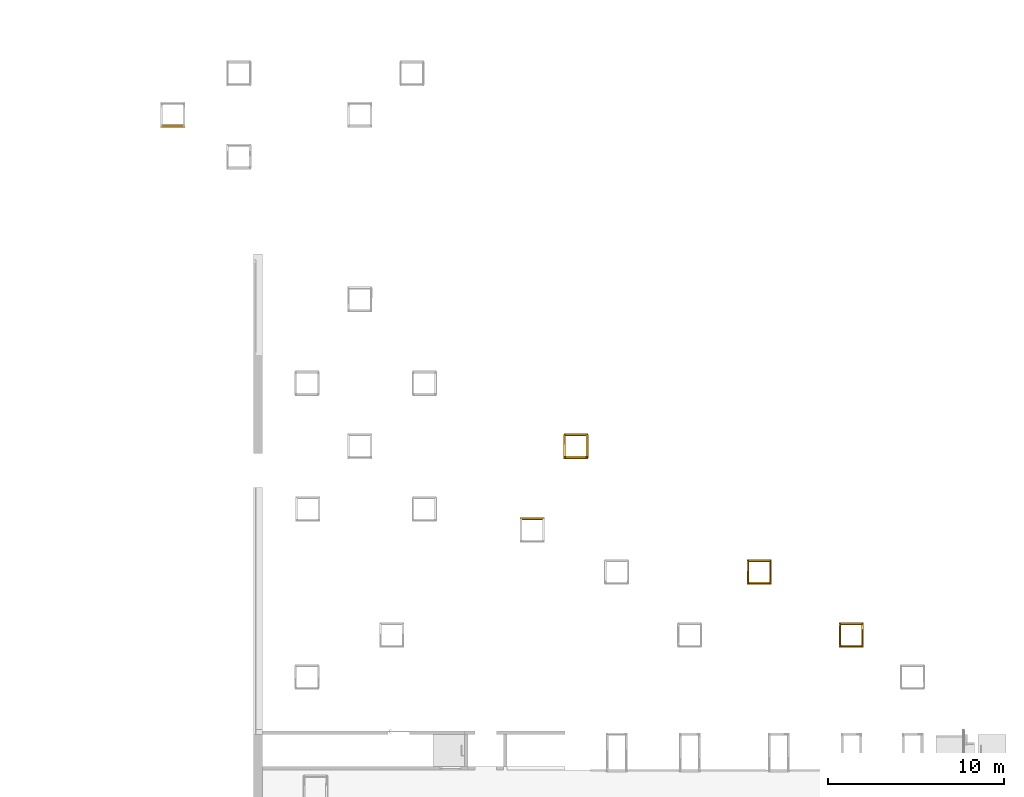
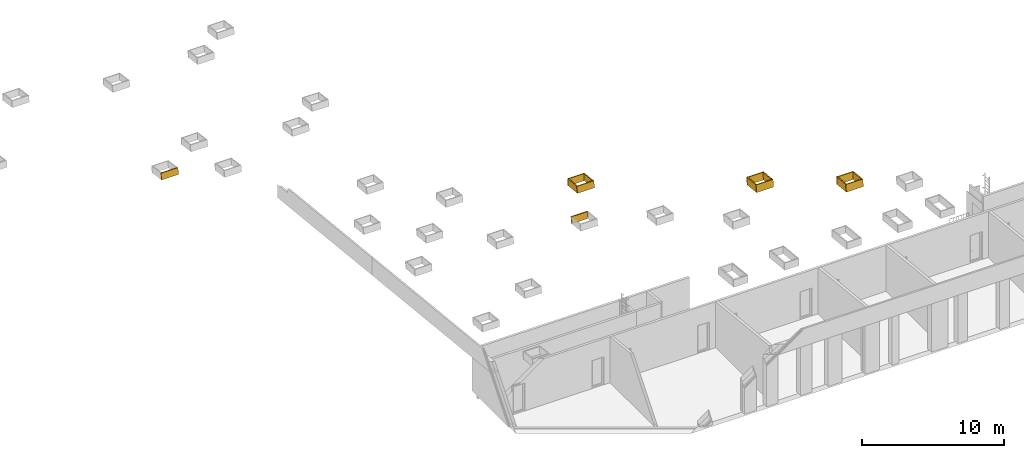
# One storey, part 18 of 23: 14 coverings.
"""IFC2X3 building model written with IfcOpenShell, lengths in millimetres."""

from ifc_helpers import new_model, entity, si_unit, converted_unit, derived_unit, money_unit, direction, frame, origin_with_axes, place, context, subcontext, project, spatial, faceted_brep, material, material_list, type_object, element, save


model = new_model("IFC2X3")

# Units and contexts
model_context = context("Model", 3, precision=0.01, world=origin_with_axes(), true_north=direction((0.0, 1.0)))
body_context = subcontext(model_context, "Body", "Model", "MODEL_VIEW")
ifc_project = project(units=[si_unit("LENGTHUNIT", "METRE", prefix="MILLI"), si_unit("AREAUNIT", "SQUARE_METRE"), si_unit("VOLUMEUNIT", "CUBIC_METRE"), converted_unit("PLANEANGLEUNIT", "DEGREE", entity("IfcPlaneAngleMeasure", 0.0174532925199), si_unit("PLANEANGLEUNIT", "RADIAN"), dimensions=[0, 0, 0, 0, 0, 0, 0]), si_unit("SOLIDANGLEUNIT", "STERADIAN"), money_unit("EUR"), converted_unit("TIMEUNIT", "Year", entity("IfcTimeMeasure", 31556926.0), si_unit("TIMEUNIT", "SECOND"), dimensions=[0, 0, 1, 0, 0, 0, 0]), si_unit("MASSUNIT", "GRAM", prefix="KILO"), si_unit("THERMODYNAMICTEMPERATUREUNIT", "DEGREE_CELSIUS"), si_unit("LUMINOUSINTENSITYUNIT", "LUMEN"), si_unit("ENERGYUNIT", "JOULE", prefix="MEGA"), derived_unit("THERMALCONDUCTANCEUNIT", [(si_unit("POWERUNIT", "WATT"), 1), (si_unit("LENGTHUNIT", "METRE"), -1), (si_unit("THERMODYNAMICTEMPERATUREUNIT", "KELVIN"), -1)]), derived_unit("SPECIFICHEATCAPACITYUNIT", [(si_unit("ENERGYUNIT", "JOULE"), 1), (si_unit("MASSUNIT", "GRAM", prefix="KILO"), -1), (si_unit("THERMODYNAMICTEMPERATUREUNIT", "KELVIN"), -1)]), derived_unit("MASSDENSITYUNIT", [(si_unit("MASSUNIT", "GRAM", prefix="KILO"), 1), (si_unit("VOLUMEUNIT", "CUBIC_METRE"), -1)])], contexts=[model_context])

# Site, building, storey
site_placement = place(None, origin_with_axes())
site = spatial("IfcSite", under=ifc_project, at=site_placement, Name="L.Koidula tn 11b", CompositionType="ELEMENT")
building_placement = place(site_placement, origin_with_axes())
building = spatial("IfcBuilding", under=site, at=building_placement, Name="Rakvere Riigigümnaasium", CompositionType="ELEMENT")
storey_placement = place(building_placement, frame((0.0, 0.0, 7440.0), z_axis=(0.0, 0.0, 1.0), x_axis=(1.0, 0.0, 0.0)))
storey = spatial("IfcBuildingStorey", under=building, at=storey_placement, Name="3.korrus +7,44", CompositionType="ELEMENT", Elevation=7440.0)

# Coverings
ifc_material_1 = material(Name="SKR-02_Kipsplaat")
ifc_material_2 = material(Name="mineraalvill+karkass")
ifc_material_list_1 = material_list([ifc_material_1, ifc_material_1, ifc_material_2])
covering_type = type_object("IfcCoveringType", Name="SA-2xkips 91", PredefinedType="NOTDEFINED")
covering_1_placement = place(storey_placement, frame((69588.2514085, 23330.839022, 2237.63897934), z_axis=(0.0, 0.0, 1.0), x_axis=(-1.0, 0.0, 0.0)))
element("IfcCovering", 1, at=covering_1_placement, inside=storey, type_object=covering_type, material=ifc_material_list_1, Name="Ava-pinnakate", PredefinedType="NOTDEFINED", context=body_context, shape_type="Brep", body=[
    faceted_brep([(-12.5001425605, -0.99535127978, 9.47013483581), (-12.5019214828, -13.4268749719, 8.16352904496), (-12.511217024, -78.3862809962, 626.21099269), (-12.5094381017, -65.9547573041, 627.517598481), (1212.49807421, -13.4268749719, 8.16352904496), (1212.49987003, -0.99535127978, 9.47013483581), (1212.48869036, -78.3862809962, 626.21099269), (1212.49048619, -65.9547573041, 627.517598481)], [[[0, 1, 2, 3]], [[4, 1, 0, 5]], [[1, 4, 6, 2]], [[7, 3, 2, 6]], [[5, 0, 3, 7]], [[4, 5, 7, 6]]]),
    faceted_brep([(-25.0019216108, -13.4268749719, 8.16352904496), (-25.0037005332, -25.858398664, 6.85692325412), (-25.0129960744, -90.8178046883, 624.904386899), (-25.011217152, -78.3862809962, 626.21099269), (1224.99627852, -25.858398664, 6.85692325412), (1224.99807434, -13.4268749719, 8.16352904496), (1224.98689467, -90.8178046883, 624.904386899), (1224.98869049, -78.3862809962, 626.21099269)], [[[0, 1, 2, 3]], [[4, 1, 0, 5]], [[1, 4, 6, 2]], [[7, 3, 2, 6]], [[5, 0, 3, 7]], [[4, 5, 7, 6]]]),
    faceted_brep([(-91.0037012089, -25.858398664, 6.85692325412), (-91.0130367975, -91.0976655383, 0.0), (-91.01309455, -91.5012534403, 0.0), (-91.0223894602, -156.456249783, 618.005508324), (-91.0129967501, -90.8178046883, 624.904386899), (1290.98685493, -91.0976655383, 0.0), (1290.99627921, -25.858398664, 6.85692325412), (1290.98679663, -91.5012534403, 0.0), (1290.97741342, -156.456249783, 618.005508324), (1290.98689536, -90.8178046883, 624.904386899)], [[[0, 1, 2, 3, 4]], [[5, 1, 0, 6]], [[1, 5, 7, 2]], [[7, 8, 3, 2]], [[9, 4, 3, 8]], [[6, 0, 4, 9]], [[5, 6, 9, 8, 7]]]),
])
covering_2_placement = place(storey_placement, frame((68388.0791348, 22138.3739884, 2372.21929527), z_axis=(0.0, 0.0, 1.0), x_axis=(1.0, 0.0, 0.0)))
element("IfcCovering", 2, at=covering_2_placement, inside=storey, type_object=covering_type, material=ifc_material_list_1, Name="Ava-pinnakate", PredefinedType="NOTDEFINED", context=body_context, shape_type="Brep", body=[
    faceted_brep([(1212.49986082, -12.3974719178, 1.63058678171), (1212.50163975, 0.0340517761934, 0.323980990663), (1212.51093529, 64.9934614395, 618.371444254), (1212.50915637, 52.5619341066, 619.678050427), (-12.4999952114, 0.0340517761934, 0.323980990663), (-12.5017910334, -12.3974719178, 1.63058678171), (-12.4906113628, 64.9934614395, 618.371444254), (-12.4924071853, 52.5619341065, 619.678050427)], [[[0, 1, 2, 3]], [[4, 1, 0, 5]], [[1, 4, 6, 2]], [[7, 3, 2, 6]], [[5, 0, 3, 7]], [[4, 5, 7, 6]]]),
    faceted_brep([(1224.99808257, -24.8289956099, 2.93719257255), (1224.99986149, -12.3974719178, 1.63058678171), (1225.00915651, 52.5619341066, 619.678050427), (1225.00737759, 40.1304104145, 620.984656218), (-25.0017898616, -12.3974719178, 1.63058678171), (-25.0035856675, -24.8289956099, 2.93719257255), (-24.9924073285, 52.5619341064, 619.678050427), (-24.9942031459, 40.1304104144, 620.984656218)], [[[0, 1, 2, 3]], [[4, 1, 0, 5]], [[1, 4, 6, 2]], [[7, 3, 2, 6]], [[5, 0, 3, 7]], [[4, 5, 7, 6]]]),
    faceted_brep([(1290.9886893, -90.4674407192, 9.8360711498), (1290.99808201, -24.8289956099, 2.93719257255), (1291.00737755, 40.1304104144, 620.984656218), (1290.99798484, -25.5080356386, 627.883534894), (-91.0035876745, -24.8289956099, 2.93719257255), (-91.0130696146, -90.4674407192, 9.8360711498), (-90.9942038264, 40.1304104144, 620.984656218), (-91.0036857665, -25.5080356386, 627.883534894)], [[[0, 1, 2, 3]], [[4, 1, 0, 5]], [[1, 4, 6, 2]], [[7, 3, 2, 6]], [[5, 0, 3, 7]], [[4, 5, 7, 6]]]),
])
covering_3_placement = place(storey_placement, frame((68388.2513948, 23330.839022, 2161.55101679), z_axis=(0.0, 0.0, 1.0), x_axis=(-0.000144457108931, -0.999999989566, 0.0)))
element("IfcCovering", 3, at=covering_3_placement, inside=storey, type_object=covering_type, material=ifc_material_list_1, Name="Ava-pinnakate", PredefinedType="NOTDEFINED", context=body_context, shape_type="Brep", body=[
    faceted_brep([(1192.43099424, -1.17488241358e-06, 210.992259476), (-0.995351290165, -9.2512664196e-09, 85.5580973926), (-65.9547579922, -6.12644157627e-07, 703.605561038), (-0.0976539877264, -6.19408524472e-07, 710.527421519), (0.0, -6.19408524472e-07, 710.527421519), (0.0, -6.19408524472e-07, 710.537685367), (1127.4715839, -7.57012230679e-08, 829.039722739), (-0.993545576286, -12.5, 85.5580973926), (1192.43279995, -12.4999999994, 210.992259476), (-65.9529522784, -12.5, 703.605561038), (-0.0958482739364, -12.5, 710.527421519), (0.0, -12.5, 710.527421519), (0.0, -12.5, 710.537495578), (1127.47338961, -12.5, 829.039722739)], [[[0, 1, 2, 3, 4, 5, 6]], [[7, 1, 0, 8]], [[1, 7, 9, 2]], [[10, 3, 2, 9]], [[4, 3, 10, 11]], [[11, 12, 5, 4]], [[13, 6, 5, 12]], [[8, 0, 6, 13]], [[7, 8, 13, 12, 11, 10, 9]]]),
    faceted_brep([(1204.86432377, -12.5, 212.298865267), (-13.4250693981, -12.5, 84.2514916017), (-78.3844761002, -12.5, 702.298955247), (1139.90491707, -12.5, 830.346328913), (-13.4232636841, -25.0000006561, 84.2514916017), (1204.86612949, -24.9999985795, 212.298865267), (-78.3826703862, -25.0000006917, 702.298955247), (1139.90672279, -25.00000001, 830.346328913)], [[[0, 1, 2, 3]], [[4, 1, 0, 5]], [[1, 4, 6, 2]], [[3, 2, 6, 7]], [[5, 0, 3, 7]], [[4, 5, 7, 6]]]),
    faceted_brep([(1217.29765331, -24.9999985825, 213.605471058), (-25.8547875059, -25.000000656, 82.9448858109), (-90.814194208, -25.0000006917, 700.992349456), (1152.33824661, -25.000000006, 831.652934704), (-25.8452533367, -91.0, 82.9448858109), (1217.30718748, -91.0, 213.605471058), (-90.8046600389, -91.0, 700.992349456), (1152.34778078, -91.0, 831.652934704)], [[[0, 1, 2, 3]], [[4, 1, 0, 5]], [[1, 4, 6, 2]], [[3, 2, 6, 7]], [[5, 0, 3, 7]], [[4, 5, 7, 6]]]),
])
ifc_material_list_2 = material_list([ifc_material_2, ifc_material_1, ifc_material_1])
covering_4_placement = place(storey_placement, frame((69588.2514085, 23330.839022, 2161.55101679), z_axis=(0.0, 0.0, 1.0), x_axis=(-0.000143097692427, -0.999999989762, 0.0)))
element("IfcCovering", 4, at=covering_4_placement, inside=storey, type_object=covering_type, material=ifc_material_list_2, Name="Ava-pinnakate", PredefinedType="NOTDEFINED", context=body_context, shape_type="Brep", body=[
    faceted_brep([(1217.28101975, 90.999999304, 213.605471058), (-25.8714208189, 91.0, 82.9448858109), (-90.8308275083, 91.0, 700.992349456), (-0.110675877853, 90.9999993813, 710.527421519), (0.0, 90.9999993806, 710.527421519), (0.0, 90.9999993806, 710.539054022), (1152.32161307, 90.9999993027, 831.652934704), (-25.8619763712, 25.0000006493, 82.9448858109), (1217.2904642, 25.000000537, 213.605471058), (-90.8213830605, 25.0000000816, 700.992349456), (-0.101231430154, 25.0000000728, 710.527421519), (0.0, 25.0000000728, 710.527421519), (0.0, 25.0000000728, 710.538061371), (1152.33105751, 25.0000000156, 831.652934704)], [[[0, 1, 2, 3, 4, 5, 6]], [[7, 1, 0, 8]], [[1, 7, 9, 2]], [[10, 3, 2, 9]], [[4, 3, 10, 11]], [[11, 12, 5, 4]], [[13, 6, 5, 12]], [[8, 0, 6, 13]], [[7, 8, 13, 12, 11, 10, 9]]]),
    faceted_brep([(1204.85894038, 25.0000005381, 212.298865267), (-13.4304525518, 25.0000006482, 84.2514916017), (-78.3898592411, 25.0000000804, 702.298955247), (-0.101231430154, 25.0000000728, 710.527421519), (0.0, 25.0000000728, 710.527421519), (0.0, 25.0000000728, 710.538061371), (1139.89953369, 25.0000000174, 830.346328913), (-13.4286638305, 12.5, 84.2514916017), (1204.8607291, 12.5, 212.298865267), (-78.3880705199, 12.5, 702.298955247), (-0.0994427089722, 12.5, 710.527421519), (0.0, 12.5, 710.527421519), (0.0, 12.5, 710.537873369), (1139.90132241, 12.5, 830.346328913)], [[[0, 1, 2, 3, 4, 5, 6]], [[7, 1, 0, 8]], [[1, 7, 9, 2]], [[10, 3, 2, 9]], [[4, 3, 10, 11]], [[11, 12, 5, 4]], [[13, 6, 5, 12]], [[8, 0, 6, 13]], [[7, 8, 13, 12, 11, 10, 9]]]),
    faceted_brep([(1192.43097356, 12.5, 210.992445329), (-0.99539720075, 12.5, 85.5582805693), (-65.956527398, 12.5, 703.605563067), (-0.0994427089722, 12.5, 710.527421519), (0.0, 12.5, 710.527421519), (0.0, 12.5, 710.537873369), (1127.46984062, 12.5, 829.039727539), (-0.995351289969, 0.0, 85.5580973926), (1192.430994, 0.0, 210.992259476), (-65.9547579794, 0.0, 703.605561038), (-0.0976539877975, 0.0, 710.527421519), (0.0, 0.0, 710.527421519), (0.0, 0.0, 710.537685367), (1127.47158368, 0.0, 829.039722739)], [[[0, 1, 2, 3, 4, 5, 6]], [[7, 1, 0, 8]], [[1, 7, 9, 2]], [[10, 3, 2, 9]], [[4, 3, 10, 11]], [[11, 12, 5, 4]], [[13, 6, 5, 12]], [[8, 0, 6, 13]], [[7, 8, 13, 12, 11, 10, 9]]]),
])
covering_5_placement = place(storey_placement, frame((64355.1267274, 26911.1709749, 1861.79296544), z_axis=(0.0, 0.0, 1.0), x_axis=(-1.0, 0.0, 0.0)))
element("IfcCovering", 5, at=covering_5_placement, inside=storey, type_object=covering_type, material=ifc_material_list_1, Name="Ava-pinnakate", PredefinedType="NOTDEFINED", context=body_context, shape_type="Brep", body=[
    faceted_brep([(-12.5001356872, -0.94731972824, 9.01314514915), (-12.5019146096, -13.3788434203, 7.70653935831), (-12.5112101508, -78.3382494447, 625.754003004), (-12.5094312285, -65.9067257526, 627.060608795), (1212.49808115, -13.3788434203, 7.70653935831), (1212.49987697, -0.94731972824, 9.01314514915), (1212.4886973, -78.3382494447, 625.754003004), (1212.49049312, -65.9067257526, 627.060608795)], [[[0, 1, 2, 3]], [[4, 1, 0, 5]], [[1, 4, 6, 2]], [[7, 3, 2, 6]], [[5, 0, 3, 7]], [[4, 5, 7, 6]]]),
    faceted_brep([(-25.0019147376, -13.3788434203, 7.70653935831), (-25.00369366, -25.8103671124, 6.39993356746), (-25.0129892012, -90.7697731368, 624.447397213), (-25.0112102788, -78.3382494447, 625.754003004), (1224.99628546, -25.8103671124, 6.39993356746), (1224.99808128, -13.3788434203, 7.70653935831), (1224.98690161, -90.7697731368, 624.447397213), (1224.98869743, -78.3382494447, 625.754003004)], [[[0, 1, 2, 3]], [[4, 1, 0, 5]], [[1, 4, 6, 2]], [[7, 3, 2, 6]], [[5, 0, 3, 7]], [[4, 5, 7, 6]]]),
    faceted_brep([(-91.0036943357, -25.8103671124, 6.39993356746), (-91.0124077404, -86.7016675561, 0.0), (-91.0130945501, -91.5012534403, 0.0), (-91.022382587, -156.408218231, 617.548518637), (-91.0129898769, -90.7697731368, 624.447397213), (1290.98748997, -86.7016675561, 0.0), (1290.99628615, -25.8103671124, 6.39993356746), (1290.98679663, -91.5012534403, 0.0), (1290.97742036, -156.408218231, 617.548518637), (1290.9869023, -90.7697731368, 624.447397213)], [[[0, 1, 2, 3, 4]], [[5, 1, 0, 6]], [[1, 5, 7, 2]], [[7, 8, 3, 2]], [[9, 4, 3, 8]], [[6, 0, 4, 9]], [[5, 6, 9, 8, 7]]]),
])
covering_6_placement = place(storey_placement, frame((63154.9544537, 25718.7059414, 1996.37328137), z_axis=(0.0, 0.0, 1.0), x_axis=(1.0, 0.0, 0.0)))
element("IfcCovering", 6, at=covering_6_placement, inside=storey, type_object=covering_type, material=ifc_material_list_1, Name="Ava-pinnakate", PredefinedType="NOTDEFINED", context=body_context, shape_type="Brep", body=[
    faceted_brep([(1212.49985395, -12.4455034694, 1.17359709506), (1212.50145178, -1.27947298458, 0.0), (1212.50163487, 0.0, 0.0), (1212.51092842, 64.9454298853, 617.914454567), (1212.50914949, 52.513902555, 619.22106074), (-12.5001849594, -1.27947298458, 0.0), (-12.5017979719, -12.4455034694, 1.17359709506), (-12.5000001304, 0.0, 0.0), (-12.4906183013, 64.9454298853, 617.914454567), (-12.4924141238, 52.513902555, 619.22106074)], [[[0, 1, 2, 3, 4]], [[5, 1, 0, 6]], [[1, 5, 7, 2]], [[7, 8, 3, 2]], [[9, 4, 3, 8]], [[6, 0, 4, 9]], [[5, 6, 9, 8, 7]]]),
    faceted_brep([(1224.99807569, -24.8770271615, 2.4802028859), (1224.99985462, -12.4455034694, 1.17359709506), (1225.00914964, 52.5139025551, 619.22106074), (1225.00737071, 40.0823788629, 620.527666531), (-25.0017967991, -12.4455034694, 1.17359709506), (-25.0035926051, -24.8770271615, 2.4802028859), (-24.9924142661, 52.5139025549, 619.22106074), (-24.9942100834, 40.0823788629, 620.527666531)], [[[0, 1, 2, 3]], [[4, 1, 0, 5]], [[1, 4, 6, 2]], [[7, 3, 2, 6]], [[5, 0, 3, 7]], [[4, 5, 7, 6]]]),
    faceted_brep([(1290.98868243, -90.5154722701, 9.37908146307), (1290.99807514, -24.8770271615, 2.4802028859), (1291.00737068, 40.0823788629, 620.527666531), (1290.99797797, -25.5560671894, 627.426545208), (-91.0035946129, -24.8770271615, 2.4802028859), (-91.0130765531, -90.5154722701, 9.37908146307), (-90.9942107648, 40.0823788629, 620.527666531), (-91.003692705, -25.5560671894, 627.426545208)], [[[0, 1, 2, 3]], [[4, 1, 0, 5]], [[1, 4, 6, 2]], [[7, 3, 2, 6]], [[5, 0, 3, 7]], [[4, 5, 7, 6]]]),
])
covering_7_placement = place(storey_placement, frame((63155.1267137, 26911.1709749, 1785.70500288), z_axis=(0.0, 0.0, 1.0), x_axis=(-0.000144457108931, -0.999999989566, 0.0)))
element("IfcCovering", 7, at=covering_7_placement, inside=storey, type_object=covering_type, material=ifc_material_list_1, Name="Ava-pinnakate", PredefinedType="NOTDEFINED", context=body_context, shape_type="Brep", body=[
    faceted_brep([(1192.46504601, -1.1754579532e-06, 210.533800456), (-0.94731973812, -8.79651906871e-09, 85.1011077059), (-65.9067264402, -6.12203621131e-07, 703.148571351), (1127.51961545, -7.6518347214e-08, 828.582733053), (1192.46504601, -1.1754579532e-06, 210.668278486), (-0.945514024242, -12.5, 85.1011077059), (1192.46685057, -12.4999999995, 210.533800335), (-65.9049207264, -12.5, 703.148571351), (1127.52142116, -12.5, 828.582733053), (1192.46685173, -12.4999999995, 210.668278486)], [[[0, 1, 2, 3, 4]], [[5, 1, 0, 6]], [[1, 5, 7, 2]], [[8, 3, 2, 7]], [[4, 3, 8, 9]], [[6, 0, 4, 9]], [[5, 6, 9, 8, 7]]]),
    faceted_brep([(1192.46504601, -12.5, 210.533610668), (-13.3770378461, -12.5, 83.7945019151), (-78.3364445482, -12.5, 701.84196556), (1139.95294862, -12.5, 829.889339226), (1204.91235533, -12.5, 211.841875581), (1193.74632473, -12.5, 210.668278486), (1192.46504601, -12.5, 210.668278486), (-13.3752321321, -25.0000006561, 83.7945019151), (1192.46504601, -24.9999985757, 210.53342088), (-78.3346388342, -25.0000006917, 701.84196556), (1139.95475434, -25.0000000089, 829.889339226), (1204.91416104, -24.9999985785, 211.841875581), (1193.74813044, -24.9999985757, 210.668278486), (1192.46504601, -24.9999985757, 210.668278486)], [[[0, 1, 2, 3, 4, 5, 6]], [[7, 1, 0, 8]], [[1, 7, 9, 2]], [[10, 3, 2, 9]], [[11, 4, 3, 10]], [[12, 5, 4, 11]], [[5, 12, 13, 6]], [[8, 0, 6, 13]], [[7, 8, 13, 12, 11, 10, 9]]]),
    faceted_brep([(1192.46504601, -24.9999985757, 210.53342088), (-25.8067559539, -25.000000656, 82.4878961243), (-90.766162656, -25.0000006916, 700.53535977), (1152.38627816, -25.000000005, 831.195945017), (1217.34568486, -24.9999985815, 213.148481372), (1193.74813044, -24.9999985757, 210.668278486), (1192.46504601, -24.9999985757, 210.668278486), (-25.7972217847, -91.0, 82.4878961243), (1192.46504601, -91.0, 210.532418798), (-90.7566284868, -91.0, 700.53535977), (1152.39581233, -91.0, 831.195945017), (1217.35521903, -91.0, 213.148481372), (1193.75766461, -91.0, 210.668278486), (1192.46504601, -91.0, 210.668278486)], [[[0, 1, 2, 3, 4, 5, 6]], [[7, 1, 0, 8]], [[1, 7, 9, 2]], [[10, 3, 2, 9]], [[11, 4, 3, 10]], [[12, 5, 4, 11]], [[5, 12, 13, 6]], [[8, 0, 6, 13]], [[7, 8, 13, 12, 11, 10, 9]]]),
])
covering_8_placement = place(storey_placement, frame((64355.1267274, 26911.1709749, 1785.70500288), z_axis=(0.0, 0.0, 1.0), x_axis=(-0.000143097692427, -0.999999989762, 0.0)))
element("IfcCovering", 8, at=covering_8_placement, inside=storey, type_object=covering_type, material=ifc_material_list_2, Name="Ava-pinnakate", PredefinedType="NOTDEFINED", context=body_context, shape_type="Brep", body=[
    faceted_brep([(1192.46504578, 90.9999988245, 210.535169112), (-25.8233892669, 91.0, 82.4878961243), (-90.7827959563, 91.0, 700.53535977), (1152.36964462, 90.9999993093, 831.195945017), (1217.32905131, 90.9999993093, 213.148481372), (1193.73149689, 90.999998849, 210.668278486), (1192.46504578, 90.9999988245, 210.668278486), (-25.8139448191, 25.0000006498, 82.4878961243), (1192.46504578, 25.0000005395, 210.53417646), (-90.7733515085, 25.000000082, 700.53535977), (1152.37908906, 25.000000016, 831.195945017), (1217.33849575, 25.0000005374, 213.148481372), (1193.74094134, 25.0000005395, 210.668278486), (1192.46504578, 25.0000005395, 210.668278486)], [[[0, 1, 2, 3, 4, 5, 6]], [[7, 1, 0, 8]], [[1, 7, 9, 2]], [[10, 3, 2, 9]], [[11, 4, 3, 10]], [[12, 5, 4, 11]], [[5, 12, 13, 6]], [[8, 0, 6, 13]], [[7, 8, 13, 12, 11, 10, 9]]]),
    faceted_brep([(1192.46504578, 25.0000005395, 210.53417646), (-13.3824209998, 25.0000006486, 83.7945019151), (-78.3418276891, 25.0000000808, 701.84196556), (1139.94756525, 25.0000000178, 829.889339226), (1204.90697193, 25.0000005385, 211.841875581), (1193.74094134, 25.0000005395, 210.668278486), (1192.46504578, 25.0000005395, 210.668278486), (-13.3806322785, 12.5, 83.7945019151), (1192.46504578, 12.5, 210.533988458), (-78.3400389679, 12.5, 701.84196556), (1139.94935397, 12.5, 829.889339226), (1204.90876066, 12.5, 211.841875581), (1193.74273006, 12.5, 210.668278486), (1192.46504578, 12.5, 210.668278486)], [[[0, 1, 2, 3, 4, 5, 6]], [[7, 1, 0, 8]], [[1, 7, 9, 2]], [[10, 3, 2, 9]], [[11, 4, 3, 10]], [[12, 5, 4, 11]], [[5, 12, 13, 6]], [[8, 0, 6, 13]], [[7, 8, 13, 12, 11, 10, 9]]]),
    faceted_brep([(1192.46504578, 12.5, 210.533988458), (-0.947364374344, 12.5, 85.1012910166), (-65.9084945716, 12.5, 703.148573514), (1127.51787345, 12.5, 828.582737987), (1192.46504578, 12.5, 210.668278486), (-0.947319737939, 0.0, 85.1011077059), (1192.46504578, 0.0, 210.533800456), (-65.9067264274, 0.0, 703.148571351), (1127.51961523, 0.0, 828.582733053), (1192.46504578, 0.0, 210.668278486)], [[[0, 1, 2, 3, 4]], [[5, 1, 0, 6]], [[1, 5, 7, 2]], [[8, 3, 2, 7]], [[4, 3, 8, 9]], [[6, 0, 4, 9]], [[5, 6, 9, 8, 7]]]),
])
covering_9_placement = place(storey_placement, frame((51444.7853354, 29298.8225691, 1599.01803736), z_axis=(0.0, 0.0, 1.0), x_axis=(-1.0, 0.0, 0.0)))
element("IfcCovering", 9, at=covering_9_placement, inside=storey, type_object=covering_type, material=ifc_material_list_1, Name="Ava-pinnakate", PredefinedType="NOTDEFINED", context=body_context, shape_type="Brep", body=[
    faceted_brep([(1212.48934699, -73.8408395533, 582.964006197), (-12.5105665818, -73.8408395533, 582.964006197), (-12.5020904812, -14.6078752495, 19.3999961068), (1212.49790361, -14.6078752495, 19.3999961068), (-12.5087876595, -61.4093158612, 584.270611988), (1212.49114281, -61.4093158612, 584.270611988), (-12.5003115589, -2.1763515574, 20.7066018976), (1212.49969943, -2.1763515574, 20.7066018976)], [[[0, 1, 2, 3]], [[4, 1, 0, 5]], [[1, 4, 6, 2]], [[7, 3, 2, 6]], [[5, 0, 3, 7]], [[4, 5, 7, 6]]]),
    faceted_brep([(1224.98755129, -86.2723632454, 581.657400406), (-25.0123456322, -86.2723632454, 581.657400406), (-25.0038695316, -27.0393989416, 18.0933903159), (1224.99610792, -27.0393989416, 18.0933903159), (-25.0105667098, -73.8408395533, 582.964006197), (1224.98934712, -73.8408395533, 582.964006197), (-25.0020906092, -14.6078752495, 19.3999961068), (1224.99790374, -14.6078752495, 19.3999961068)], [[[0, 1, 2, 3]], [[4, 1, 0, 5]], [[1, 4, 6, 2]], [[7, 3, 2, 6]], [[5, 0, 3, 7]], [[4, 5, 7, 6]]]),
    faceted_brep([(1290.97807004, -151.91080834, 574.758521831), (-91.021739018, -151.91080834, 574.758521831), (-91.0132629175, -92.6778440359, 11.1945117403), (1290.98662667, -92.6778440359, 11.1945117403), (-91.0123463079, -86.2723632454, 581.657400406), (1290.98755198, -86.2723632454, 581.657400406), (-91.0038702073, -27.0393989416, 18.0933903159), (1290.99610861, -27.0393989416, 18.0933903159)], [[[0, 1, 2, 3]], [[4, 1, 0, 5]], [[1, 4, 6, 2]], [[7, 3, 2, 6]], [[5, 0, 3, 7]], [[4, 5, 7, 6]]]),
])
covering_10_placement = place(storey_placement, frame((53925.1301635, 34073.8003398, 1109.12056599), z_axis=(0.0, 0.0, 1.0), x_axis=(-1.0, 0.0, 0.0)))
element("IfcCovering", 10, at=covering_10_placement, inside=storey, type_object=covering_type, material=ifc_material_list_1, Name="Ava-pinnakate", PredefinedType="NOTDEFINED", context=body_context, shape_type="Brep", body=[
    faceted_brep([(1212.48952678, -72.5961849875, 571.121909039), (-12.5103884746, -72.5961849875, 571.121909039), (-12.501912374, -13.3632206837, 7.55789894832), (1212.49808341, -13.3632206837, 7.55789894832), (-12.5086095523, -60.1646612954, 572.428514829), (1212.49132261, -60.1646612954, 572.428514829), (-12.5001334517, -0.931696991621, 8.86450473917), (1212.49987923, -0.931696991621, 8.86450473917)], [[[0, 1, 2, 3]], [[4, 1, 0, 5]], [[1, 4, 6, 2]], [[7, 3, 2, 6]], [[5, 0, 3, 7]], [[4, 5, 7, 6]]]),
    faceted_brep([(1224.98773109, -85.0277086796, 569.815303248), (-25.012167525, -85.0277086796, 569.815303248), (-25.0036914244, -25.7947443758, 6.25129315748), (1224.99628772, -25.7947443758, 6.25129315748), (-25.0103886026, -72.5961849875, 571.121909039), (1224.98952692, -72.5961849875, 571.121909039), (-25.001912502, -13.3632206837, 7.55789894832), (1224.99808354, -13.3632206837, 7.55789894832)], [[[0, 1, 2, 3]], [[4, 1, 0, 5]], [[1, 4, 6, 2]], [[7, 3, 2, 6]], [[5, 0, 3, 7]], [[4, 5, 7, 6]]]),
    faceted_brep([(1290.97824984, -150.666153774, 562.916424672), (-91.0215609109, -150.666153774, 562.916424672), (-91.0130945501, -91.5012534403, 0.0), (1290.98679663, -91.5012534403, 0.0), (-91.0121682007, -85.0277086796, 569.815303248), (1290.98773178, -85.0277086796, 569.815303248), (-91.0036921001, -25.7947443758, 6.25129315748), (-91.0122031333, -85.2718257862, 0.0), (1290.98769652, -85.2718257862, 0.0), (1290.9962884, -25.7947443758, 6.25129315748)], [[[0, 1, 2, 3]], [[4, 1, 0, 5]], [[1, 4, 6, 7, 2]], [[2, 7, 8, 3]], [[5, 0, 3, 8, 9]], [[4, 5, 9, 6]], [[9, 8, 7, 6]]]),
])
covering_11_placement = place(storey_placement, frame((52724.9578897, 32881.3353062, 1243.70088192), z_axis=(0.0, 0.0, 1.0), x_axis=(1.0, 0.0, 0.0)))
element("IfcCovering", 11, at=covering_11_placement, inside=storey, type_object=covering_type, material=ifc_material_list_1, Name="Ava-pinnakate", PredefinedType="NOTDEFINED", context=body_context, shape_type="Brep", body=[
    faceted_brep([(-12.4914477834, 59.2033651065, 563.282360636), (1212.51010674, 59.2033651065, 563.282360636), (1212.50163487, 0.0, 0.0), (-12.5000001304, 0.0, 0.0), (1212.50832782, 46.7718380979, 564.588966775), (-12.4932436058, 46.7718380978, 564.588966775), (1212.49985172, -12.461126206, 1.02495668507), (1212.50124718, -2.70931475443, 0.0), (-12.5003915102, -2.70931475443, 0.0), (-12.5018002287, -12.461126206, 1.02495668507)], [[[0, 1, 2, 3]], [[4, 1, 0, 5]], [[1, 4, 6, 7, 2]], [[2, 7, 8, 3]], [[5, 0, 3, 8, 9]], [[4, 5, 9, 6]], [[9, 8, 7, 6]]]),
    faceted_brep([(-24.9932436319, 46.7718380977, 564.588966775), (1225.00832801, 46.7718380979, 564.588966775), (1224.99985238, -12.461126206, 1.02495668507), (-25.0017990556, -12.461126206, 1.02495668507), (1225.00654908, 34.3403144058, 565.895572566), (-24.9950394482, 34.3403144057, 565.895572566), (1224.99807346, -24.8926498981, 2.33156247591), (-25.0035948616, -24.8926498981, 2.33156247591)], [[[0, 1, 2, 3]], [[4, 1, 0, 5]], [[1, 4, 6, 2]], [[7, 3, 2, 6]], [[5, 0, 3, 7]], [[4, 5, 7, 6]]]),
    faceted_brep([(-90.9950402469, 34.3403144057, 565.895572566), (1291.00654901, 34.3403144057, 565.895572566), (1290.99807291, -24.8926498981, 2.33156247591), (-91.0035968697, -24.8926498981, 2.33156247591), (1290.9971563, -31.2981315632, 572.794451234), (-91.004522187, -31.2981315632, 572.794451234), (1290.9886802, -90.5310950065, 9.23044105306), (-91.0130788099, -90.5310950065, 9.23044105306)], [[[0, 1, 2, 3]], [[4, 1, 0, 5]], [[1, 4, 6, 2]], [[7, 3, 2, 6]], [[5, 0, 3, 7]], [[4, 5, 7, 6]]]),
])
covering_12_placement = place(storey_placement, frame((52725.1301498, 34073.8003398, 1033.03260343), z_axis=(0.0, 0.0, 1.0), x_axis=(-0.000144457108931, -0.999999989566, 0.0)))
element("IfcCovering", 12, at=covering_12_placement, inside=storey, type_object=covering_type, material=ifc_material_list_1, Name="Ava-pinnakate", PredefinedType="NOTDEFINED", context=body_context, shape_type="Brep", body=[
    faceted_brep([(-60.1628562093, -12.5, 648.516477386), (-60.1646619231, -5.58870283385e-07, 648.516477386), (-0.931697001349, -8.6473050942e-09, 84.952467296), (-0.929891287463, -12.5, 84.952467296), (1133.26168029, -1.73685066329e-07, 773.950639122), (1133.263486, -12.4999999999, 773.950639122), (1192.46504601, -1.1754579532e-06, 210.668278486), (1192.46504601, -1.1754579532e-06, 210.38351803), (1192.46684929, -12.4999999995, 210.383517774), (1192.46685173, -12.4999999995, 210.668278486)], [[[0, 1, 2, 3]], [[4, 1, 0, 5]], [[1, 4, 6, 7, 2]], [[8, 3, 2, 7]], [[5, 0, 3, 8, 9]], [[4, 5, 9, 6]], [[9, 8, 7, 6]]]),
    faceted_brep([(-72.5925743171, -25.0000006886, 647.209871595), (-72.5943800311, -12.5, 647.209871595), (-13.3614151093, -12.5, 83.6458615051), (-13.3596093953, -25.0000006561, 83.6458615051), (1145.69501314, -12.5, 775.257245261), (1145.69681886, -24.9999998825, 775.257245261), (1204.92797806, -12.5, 211.693235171), (1195.17616651, -12.5, 210.668278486), (1192.46504601, -12.5, 210.668278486), (1192.46504601, -12.5, 210.383328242), (1192.46504601, -24.9999985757, 210.383138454), (1192.46504601, -24.9999985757, 210.668278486), (1195.17797222, -24.9999985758, 210.668278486), (1204.92978378, -24.9999985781, 211.693235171)], [[[0, 1, 2, 3]], [[4, 1, 0, 5]], [[1, 4, 6, 7, 8, 9, 2]], [[10, 3, 2, 9]], [[5, 0, 3, 10, 11, 12, 13]], [[4, 5, 13, 6]], [[13, 12, 7, 6]], [[8, 7, 12, 11]], [[11, 10, 9, 8]]]),
    faceted_brep([(-85.0145639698, -91.0, 645.903265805), (-85.0240981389, -25.0000006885, 645.903265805), (-25.7911332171, -25.000000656, 82.3392557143), (-25.7815990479, -91.0, 82.3392557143), (1158.12834268, -24.9999998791, 776.563851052), (1158.13787685, -91.0, 776.563851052), (1217.3613076, -24.9999985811, 212.999840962), (1195.17797222, -24.9999985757, 210.668278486), (1192.46504601, -24.9999985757, 210.668278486), (1192.46504601, -24.9999985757, 210.383138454), (1192.46504601, -91.0, 210.382136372), (1192.46504601, -91.0, 210.668278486), (1195.18750639, -91.0, 210.668278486), (1217.37084177, -91.0, 212.999840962)], [[[0, 1, 2, 3]], [[4, 1, 0, 5]], [[1, 4, 6, 7, 8, 9, 2]], [[10, 3, 2, 9]], [[5, 0, 3, 10, 11, 12, 13]], [[4, 5, 13, 6]], [[13, 12, 7, 6]], [[8, 7, 12, 11]], [[11, 10, 9, 8]]]),
])
covering_13_placement = place(storey_placement, frame((53925.1301635, 34073.8003398, 1033.03260343), z_axis=(0.0, 0.0, 1.0), x_axis=(-0.000143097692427, -0.999999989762, 0.0)))
element("IfcCovering", 13, at=covering_13_placement, inside=storey, type_object=covering_type, material=ifc_material_list_2, Name="Ava-pinnakate", PredefinedType="NOTDEFINED", context=body_context, shape_type="Brep", body=[
    faceted_brep([(-85.0312869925, 25.0000001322, 645.903265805), (-85.0407314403, 91.0, 645.903265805), (-25.8077665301, 91.0, 82.3392557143), (-25.7983220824, 25.0000006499, 82.3392557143), (1158.11170913, 90.9999993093, 776.563851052), (1158.12115358, 25.0000000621, 776.563851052), (1217.34467404, 90.9999993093, 212.999840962), (1195.16133867, 90.9999988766, 210.668278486), (1192.46504578, 90.9999988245, 210.668278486), (1192.46504578, 90.9999988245, 210.384886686), (1192.46504578, 25.0000005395, 210.383894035), (1192.46504578, 25.0000005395, 210.668278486), (1195.17078312, 25.0000005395, 210.668278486), (1217.35411849, 25.0000005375, 212.999840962)], [[[0, 1, 2, 3]], [[4, 1, 0, 5]], [[1, 4, 6, 7, 8, 9, 2]], [[10, 3, 2, 9]], [[5, 0, 3, 10, 11, 12, 13]], [[4, 5, 13, 6]], [[13, 12, 7, 6]], [[8, 7, 12, 11]], [[11, 10, 9, 8]]]),
    faceted_brep([(-72.597974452, 12.5, 647.209871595), (-72.5997631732, 25.000000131, 647.209871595), (-13.366798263, 25.0000006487, 83.6458615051), (-13.3650095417, 12.5, 83.6458615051), (1145.68962976, 25.0000000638, 775.257245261), (1145.69141848, 12.5, 775.257245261), (1204.92259467, 25.0000005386, 211.693235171), (1195.17078312, 25.0000005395, 210.668278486), (1192.46504578, 25.0000005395, 210.668278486), (1192.46504578, 25.0000005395, 210.383894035), (1192.46504578, 12.5, 210.383706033), (1192.46504578, 12.5, 210.668278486), (1195.17257184, 12.5, 210.668278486), (1204.92438339, 12.5, 211.693235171)], [[[0, 1, 2, 3]], [[4, 1, 0, 5]], [[1, 4, 6, 7, 8, 9, 2]], [[10, 3, 2, 9]], [[5, 0, 3, 10, 11, 12, 13]], [[4, 5, 13, 6]], [[13, 12, 7, 6]], [[8, 7, 12, 11]], [[11, 10, 9, 8]]]),
    faceted_brep([(-60.1646619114, 0.0, 648.516477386), (-60.1662777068, 12.5, 648.516495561), (-0.931741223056, 12.5, 84.9526506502), (-0.931697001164, 0.0, 84.952467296), (1133.26009056, 12.5, 773.95066006), (1133.26168007, 0.0, 773.950639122), (1192.46504578, 12.5, 210.668278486), (1192.46504578, 12.5, 210.383706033), (1192.46504578, 0.0, 210.38351803), (1192.46504578, 0.0, 210.668278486)], [[[0, 1, 2, 3]], [[4, 1, 0, 5]], [[1, 4, 6, 7, 2]], [[8, 3, 2, 7]], [[5, 0, 3, 8, 9]], [[4, 5, 9, 6]], [[9, 8, 7, 6]]]),
])
covering_14_placement = place(storey_placement, frame((29792.9535938, 51707.7235334, -1102.65448172), z_axis=(0.0, 0.0, 1.0), x_axis=(1.0, 0.0, 0.0)))
element("IfcCovering", 14, at=covering_14_placement, inside=storey, type_object=covering_type, material=ifc_material_list_1, Name="Ava-pinnakate", PredefinedType="NOTDEFINED", context=body_context, shape_type="Brep", body=[
    faceted_brep([(-12.4868919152, 90.741225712, 637.581083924), (1212.51461973, 90.741225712, 637.581083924), (1212.50356941, 13.5190143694, 94.989546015), (-12.4980472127, 13.5190143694, 94.989546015), (1212.51284886, 78.3659299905, 639.342349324), (-12.4886796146, 78.3659299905, 639.342349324), (1212.50179854, 1.14371864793, 96.7508114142), (-12.4998349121, 1.14371864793, 96.7508114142)], [[[0, 1, 2, 3]], [[4, 1, 0, 5]], [[1, 4, 6, 2]], [[7, 3, 2, 6]], [[5, 0, 3, 7]], [[4, 5, 7, 6]]]),
    faceted_brep([(-24.988679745, 78.3659299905, 639.342349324), (1225.01284899, 78.3659299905, 639.342349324), (1225.00179867, 1.14371864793, 96.7508114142), (-24.9998350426, 1.14371864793, 96.7508114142), (1225.01107811, 65.9906342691, 641.103614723), (-24.9904674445, 65.9906342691, 641.103614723), (1225.00002779, -11.2315770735, 98.5120768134), (-25.001622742, -11.2315770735, 98.5120768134)], [[[0, 1, 2, 3]], [[4, 1, 0, 5]], [[1, 4, 6, 2]], [[7, 3, 2, 6]], [[5, 0, 3, 7]], [[4, 5, 7, 6]]]),
    faceted_brep([(-90.9904681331, 65.9906342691, 641.103614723), (1291.01107879, 65.9906342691, 641.103614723), (1291.00002847, -11.2315770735, 98.5120768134), (-91.0016234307, -11.2315770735, 98.5120768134), (1291.00213385, 3.48137319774, 650.0), (-90.9994980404, 3.48137319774, 650.0), (1291.00172035, 0.59170379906, 650.0), (1290.99067824, -76.5731384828, 107.811558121), (-91.0110624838, -76.5731384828, 107.811558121), (-90.9999154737, 0.59170379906, 650.0)], [[[0, 1, 2, 3]], [[4, 1, 0, 5]], [[1, 4, 6, 7, 2]], [[8, 3, 2, 7]], [[5, 0, 3, 8, 9]], [[4, 5, 9, 6]], [[9, 8, 7, 6]]]),
])

save(model, "model.ifc")
